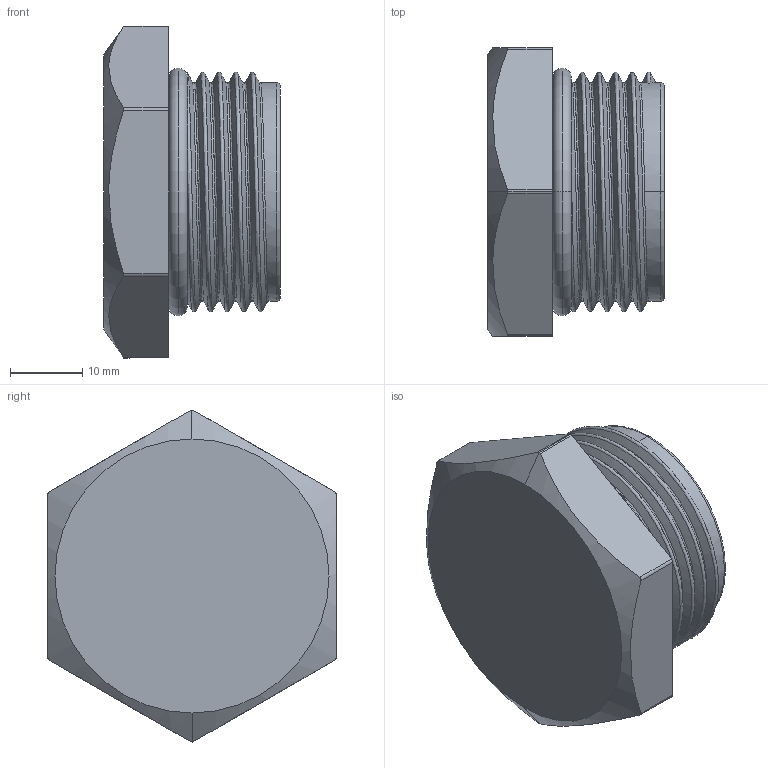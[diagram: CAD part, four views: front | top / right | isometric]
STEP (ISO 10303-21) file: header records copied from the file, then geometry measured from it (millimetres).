
FILE_DESCRIPTION (( 'STEP AP214' ), '1' );
FILE_NAME ('00200_0707.STEP', '2020-05-13T13:13:14', ( 'user' ), ( 'Hewlett-Packard Company' ), 'SwSTEP 2.0', 'SolidWorks 2011', '' );
FILE_SCHEMA (( 'AUTOMOTIVE_DESIGN' ));
Length unit declared in the file: millimetre
Products named in the file (1): 00200_0707
Bounding box: 24.5 x 40 x 46.03 mm (x, y, z)
Volume: 14026.3 mm3; surface area: 8687.8 mm2
Topology: 2 solids, 2 shells, 58 faces, 154 edges, 98 vertices
Faces by surface type: cylinder 21, torus 13, plane 11, bspline 9, cone 4
Entity records: 6330 total; most frequent: CARTESIAN_POINT 5018, ORIENTED_EDGE 304, DIRECTION 227, EDGE_CURVE 152, VERTEX_POINT 98, AXIS2_PLACEMENT_3D 96, EDGE_LOOP 60, ADVANCED_FACE 58
